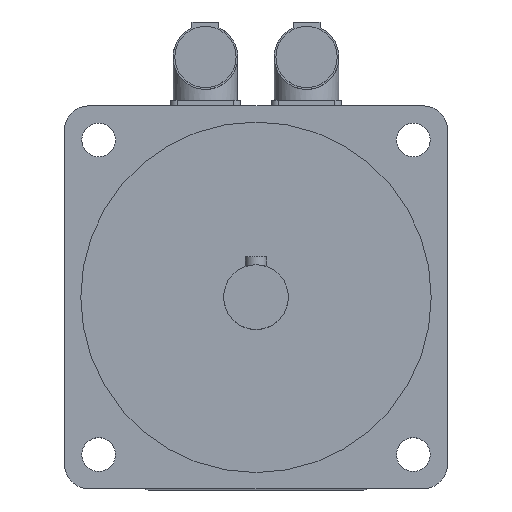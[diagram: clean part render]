
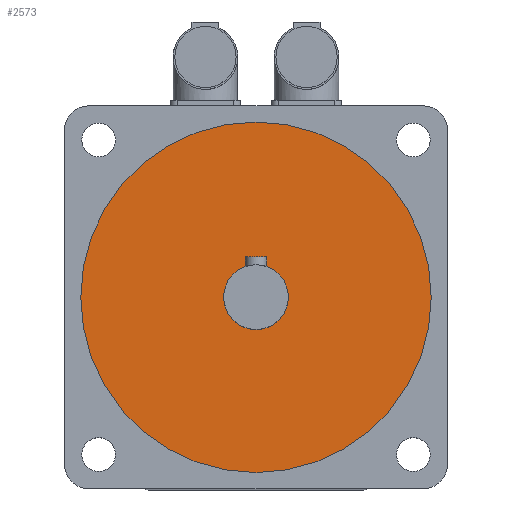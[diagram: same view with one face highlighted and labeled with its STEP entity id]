
A CAD part, top view. The second image highlights one B-rep face of the part: STEP entity #2573.
In plain terms, the highlighted planar face has unit normal (0, 0, 1).
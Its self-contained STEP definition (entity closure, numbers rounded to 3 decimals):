
#40=FACE_BOUND('',#443,.T.);
#68=CIRCLE('',#2730,12.);
#69=CIRCLE('',#2733,65.);
#285=FACE_OUTER_BOUND('',#442,.T.);
#442=EDGE_LOOP('',(#1750));
#443=EDGE_LOOP('',(#1751));
#1090=VERTEX_POINT('',#3908);
#1091=VERTEX_POINT('',#3912);
#1348=EDGE_CURVE('',#1090,#1090,#68,.T.);
#1349=EDGE_CURVE('',#1091,#1091,#69,.T.);
#1750=ORIENTED_EDGE('',*,*,#1349,.T.);
#1751=ORIENTED_EDGE('',*,*,#1348,.T.);
#2497=PLANE('',#2735);
#2573=ADVANCED_FACE('',(#285,#40),#2497,.F.);
#2730=AXIS2_PLACEMENT_3D('',#3909,#3045,#3046);
#2733=AXIS2_PLACEMENT_3D('',#3913,#3051,#3052);
#2735=AXIS2_PLACEMENT_3D('',#3916,#3055,#3056);
#3045=DIRECTION('center_axis',(0.,0.,
-1.));
#3046=DIRECTION('ref_axis',(-1.,0.,0.));
#3051=DIRECTION('center_axis',(0.,0.,
1.));
#3052=DIRECTION('ref_axis',(-1.,0.,0.));
#3055=DIRECTION('center_axis',(0.,0.,
-1.));
#3056=DIRECTION('ref_axis',(-1.,0.,0.));
#3908=CARTESIAN_POINT('',(12.,0.,251.5));
#3909=CARTESIAN_POINT('Origin',(0.,0.,
251.5));
#3912=CARTESIAN_POINT('',(65.,0.,251.5));
#3913=CARTESIAN_POINT('Origin',(0.,0.,
251.5));
#3916=CARTESIAN_POINT('Origin',(0.,0.,
251.5));
